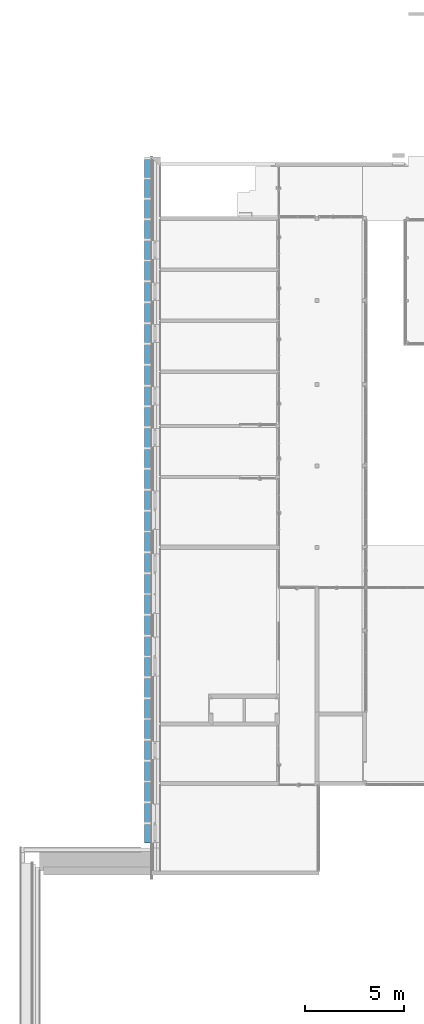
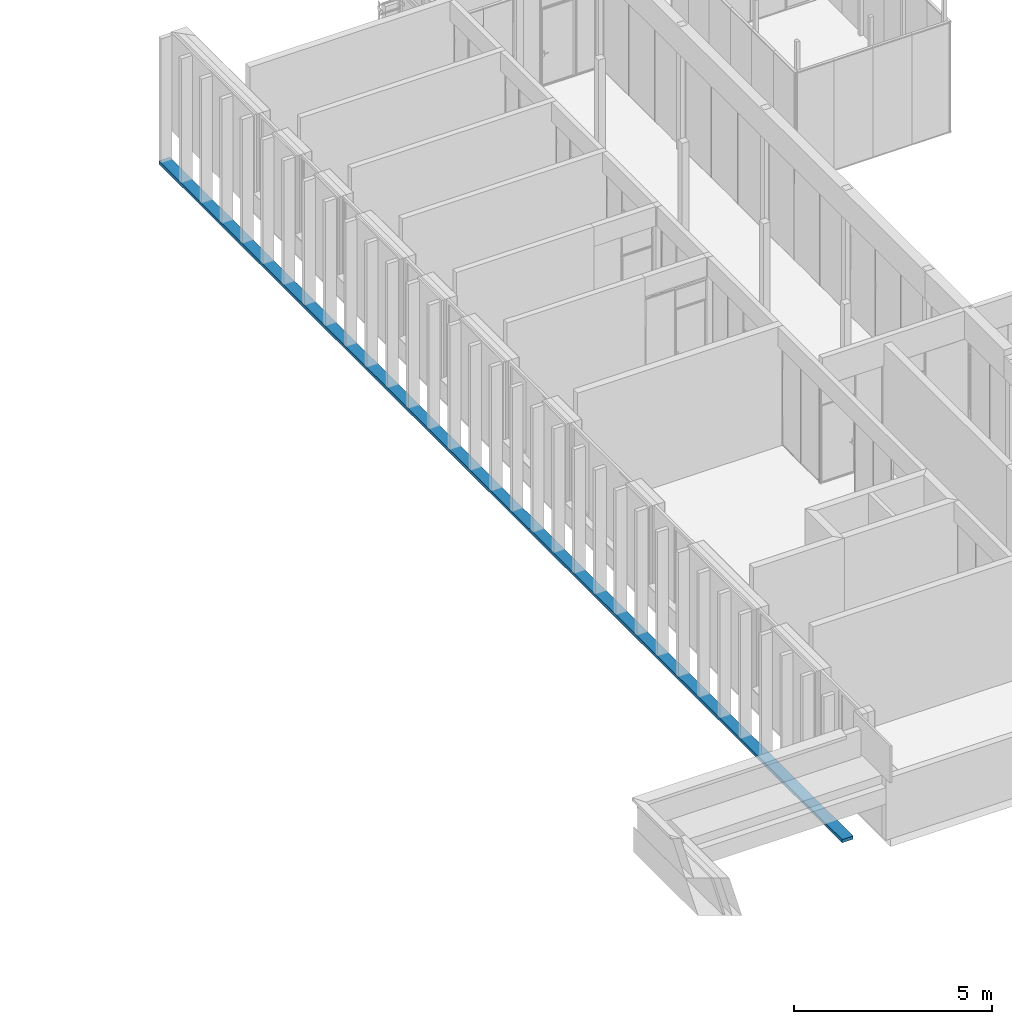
# One storey, part 4 of 387: 1 beam.
"""IFC2X3 building model written with IfcOpenShell, lengths in millimetres."""

from ifc_helpers import new_model, entity, si_unit, converted_unit, derived_unit, money_unit, direction, frame, frame_2d, origin_with_axes, place, context, subcontext, project, spatial, rectangle, extrude, material, type_object, element, save


model = new_model("IFC2X3")

# Units and contexts
model_context = context("Model", 3, precision=0.01, world=origin_with_axes(), true_north=direction((0.0, 1.0)))
body_context = subcontext(model_context, "Body", "Model", "MODEL_VIEW")
ifc_project = project(units=[si_unit("LENGTHUNIT", "METRE", prefix="MILLI"), si_unit("AREAUNIT", "SQUARE_METRE"), si_unit("VOLUMEUNIT", "CUBIC_METRE"), converted_unit("PLANEANGLEUNIT", "DEGREE", entity("IfcPlaneAngleMeasure", 0.0174532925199), si_unit("PLANEANGLEUNIT", "RADIAN"), dimensions=[0, 0, 0, 0, 0, 0, 0]), si_unit("SOLIDANGLEUNIT", "STERADIAN"), money_unit("EUR"), converted_unit("TIMEUNIT", "Year", entity("IfcTimeMeasure", 31556926.0), si_unit("TIMEUNIT", "SECOND"), dimensions=[0, 0, 1, 0, 0, 0, 0]), si_unit("MASSUNIT", "GRAM", prefix="KILO"), si_unit("THERMODYNAMICTEMPERATUREUNIT", "DEGREE_CELSIUS"), si_unit("LUMINOUSINTENSITYUNIT", "LUMEN"), si_unit("ENERGYUNIT", "JOULE", prefix="MEGA"), derived_unit("THERMALCONDUCTANCEUNIT", [(si_unit("POWERUNIT", "WATT"), 1), (si_unit("LENGTHUNIT", "METRE"), -1), (si_unit("THERMODYNAMICTEMPERATUREUNIT", "KELVIN"), -1)]), derived_unit("SPECIFICHEATCAPACITYUNIT", [(si_unit("ENERGYUNIT", "JOULE"), 1), (si_unit("MASSUNIT", "GRAM", prefix="KILO"), -1), (si_unit("THERMODYNAMICTEMPERATUREUNIT", "KELVIN"), -1)]), derived_unit("MASSDENSITYUNIT", [(si_unit("MASSUNIT", "GRAM", prefix="KILO"), 1), (si_unit("VOLUMEUNIT", "CUBIC_METRE"), -1)])], contexts=[model_context])

# Site, building, storey
site_placement = place(None, origin_with_axes())
site = spatial("IfcSite", under=ifc_project, at=site_placement, Name="Puškini 31, Narva", CompositionType="ELEMENT")
building_placement = place(site_placement, origin_with_axes())
building = spatial("IfcBuilding", under=site, at=building_placement, Name="Narva Riigigümnaasium", CompositionType="ELEMENT")
storey_placement = place(building_placement, frame((0.0, 0.0, 2640.0), z_axis=(0.0, 0.0, 1.0), x_axis=(1.0, 0.0, 0.0)))
storey = spatial("IfcBuildingStorey", under=building, at=storey_placement, Name="2.korrus +2.64", CompositionType="ELEMENT", Elevation=2640.0)

# Beam
ifc_material = material(Name="Puitroov")
beam_type = type_object("IfcBeamType", Name="Puitroov 320 x 100", PredefinedType="BEAM")
beam_placement = place(storey_placement, frame((21756.9999985, 195159.999962, -830.0), z_axis=(0.0, 0.0, 1.0), x_axis=(-1.0, 0.0, 0.0)))
element("IfcBeam", 1, at=beam_placement, inside=storey, type_object=beam_type, material=ifc_material, Name="TALA", ObjectType="BEAM", context=body_context, shape_type="SweptSolid", body=[
    extrude(rectangle(XDim=100.0, YDim=320.0, at=frame_2d((-50.0, 0.0), x_axis=(1.0, 0.0))), frame((0.0, 0.0, 0.0), z_axis=(0.0, 1.0, 0.0), x_axis=(0.0, 0.0, 1.0)), (0.0, 0.0, 1.0), 34549.9999991),
])

save(model, "model.ifc")
